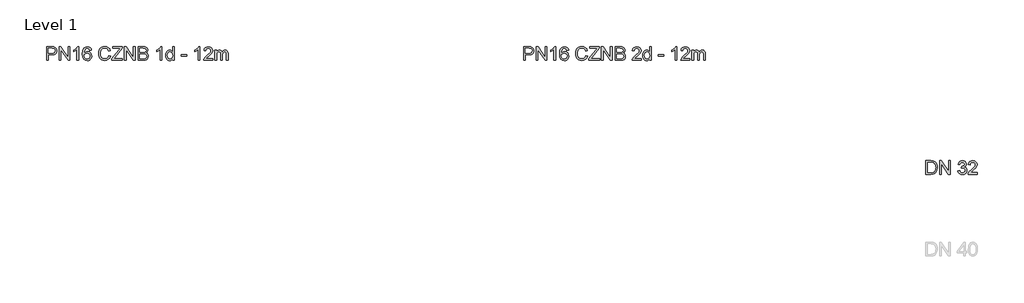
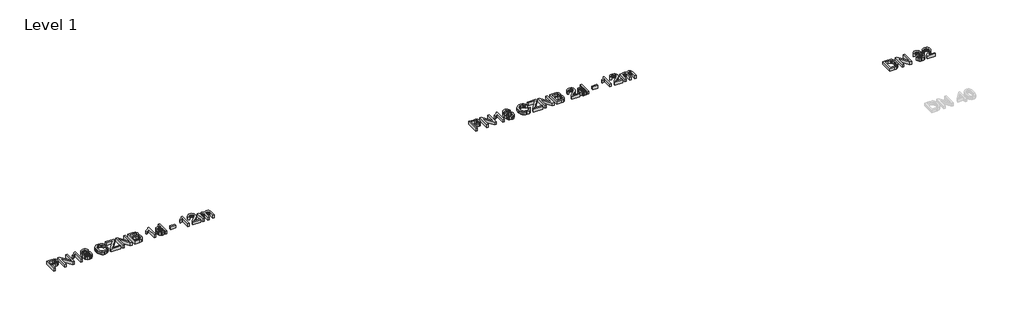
# One storey, part 13 of 13: 3 proxies.
"""IFC4 building model written with IfcOpenShell, lengths in millimetres."""

from ifc_helpers import new_model, si_unit, origin, origin_with_axes, place, context, project, spatial, polyline, outline, extrude, element, save

model = new_model("IFC4")

# Units and contexts
model_context = context("Model", 3, world=origin())
ifc_project = project(units=[si_unit("LENGTHUNIT", "METRE", prefix="MILLI")], contexts=[model_context])

# Site, building, storey
site = spatial("IfcSite", under=ifc_project)
building = spatial("IfcBuilding", under=site)
storey = spatial("IfcBuildingStorey", under=building, Name="Level 1", Elevation=0.0)

# Proxies
placement = place(None, origin())
element("IfcBuildingElementProxy", 1, Name="200mm Arial", ObjectType="200mm Arial", at=placement, inside=storey, context=model_context, shape_type="SweptSolid", body=[
    extrude(outline(polyline([(12636.2867653, 2161.9491293), (12636.2867653, 2362.8617496), (12710.7460811, 2362.8617496), (12740.7652519, 2360.9487633), (12765.1680909, 2351.5555097), (12774.0401784, 2343.2291138), (12780.9870167, 2332.1313403), (12785.4751771, 2319.0408726), (12786.9712305, 2304.7363944), (12782.9306599, 2281.0570566), (12770.8089482, 2261.326319), (12761.1014621, 2253.5578775), (12748.1412859, 2248.0089907), (12712.4628638, 2243.5698813), (12661.4008428, 2243.5698813), (12661.4008428, 2161.9491293), (12636.2867653, 2161.9491293)]), holes=[polyline([(12661.4008428, 2268.6839589), (12713.9343918, 2268.6839589), (12736.2035152, 2270.9893527), (12750.918795, 2277.9055342), (12759.1225635, 2289.0033077), (12761.857153, 2303.8534776), (12760.2446036, 2315.1351921), (12755.4069553, 2324.6510731), (12747.9450822, 2331.8125092), (12738.4598581, 2336.0308895), (12713.3457806, 2337.7476721), (12661.4008428, 2337.7476721), (12661.4008428, 2268.6839589)])]), origin_with_axes(), (0.0, 0.0, 1.0), 50.0),
    extrude(outline(polyline([(12821.5030871, 2161.9491293), (12821.5030871, 2362.8617496), (12848.3829983, 2362.8617496), (12953.3519942, 2203.6914731), (12953.3519942, 2362.8617496), (12978.4660717, 2362.8617496), (12978.4660717, 2161.9491293), (12951.5861606, 2161.9491293), (12846.6171647, 2321.1684569), (12846.6171647, 2161.9491293), (12821.5030871, 2161.9491293)])), origin_with_axes(), (0.0, 0.0, 1.0), 50.0),
    extrude(outline(polyline([(13107.1757191, 2161.9491293), (13082.0616416, 2161.9491293), (13082.0616416, 2318.5197065), (13058.2719392, 2301.5726092), (13031.8334865, 2288.8929431), (13031.8334865, 2312.6335946), (13068.6462115, 2336.1289913), (13082.1168239, 2349.7038369), (13090.9889113, 2362.8617496), (13107.1757191, 2362.8617496), (13107.1757191, 2161.9491293)])), origin_with_axes(), (0.0, 0.0, 1.0), 50.0),
    extrude(outline(polyline([(13295.5313007, 2309.4943349), (13270.4172231, 2306.3550752), (13260.9013422, 2327.2998234), (13249.5092631, 2335.1357099), (13235.7382137, 2337.7476721), (13213.0766828, 2331.6653565), (13203.6405096, 2322.057505), (13195.9333818, 2308.8321473), (13190.7278516, 2290.1253478), (13188.7964711, 2264.0731712), (13198.8703064, 2275.8270009), (13210.9429672, 2284.1104772), (13224.3400032, 2289.0217018), (13238.3869641, 2290.6587767), (13261.5880552, 2286.1828791), (13281.0612755, 2272.7551863), (13294.2682391, 2252.2396337), (13298.6705604, 2226.5001568), (13296.5981584, 2208.5168586), (13290.3809527, 2191.8456728), (13280.533978, 2177.7067415), (13267.572269, 2167.3202065), (13252.084437, 2160.9374539), (13234.6590932, 2158.8098696), (13206.1666327, 2164.4507269), (13183.4744449, 2181.3732987), (13174.8154225, 2194.4821604), (13168.6304064, 2211.2453167), (13163.6823936, 2255.7345126), (13169.176098, 2305.7542013), (13176.0432286, 2324.8319484), (13185.6572114, 2339.9549641), (13196.0774689, 2349.9766828), (13208.1593268, 2357.1350532), (13237.3078436, 2362.8617496), (13259.3439751, 2359.3178198), (13276.9900481, 2348.6860301), (13289.3508831, 2331.8002465), (13295.5313007, 2309.4943349)]), holes=[polyline([(13188.7964711, 2226.8925642), (13194.6090066, 2205.1384756), (13210.0600504, 2189.3440752), (13232.6970559, 2183.9239472), (13249.2701398, 2186.7321131), (13262.2992938, 2195.1566108), (13270.7421856, 2208.4003626), (13273.5564828, 2225.6662909), (13270.7789737, 2242.2393748), (13262.4464466, 2254.8761213), (13249.1965634, 2262.8775547), (13231.6669863, 2265.5446992), (13215.1184279, 2262.8775547), (13201.2799335, 2254.8761213), (13191.9173367, 2242.5459431), (13188.7964711, 2226.8925642)])]), origin_with_axes(), (0.0, 0.0, 1.0), 50.0),
    extrude(outline(polyline([(13549.8113357, 2233.3672873), (13574.9254133, 2226.8925642), (13563.3371304, 2197.6275515), (13545.1514971, 2176.2474762), (13521.2636929, 2163.1692713), (13492.5688973, 2158.8098696), (13463.4387746, 2162.1085449), (13440.3051285, 2172.0045705), (13422.5732163, 2188.1545901), (13409.6482956, 2210.2152471), (13401.7572268, 2236.1509278), (13399.1268705, 2263.9260184), (13402.1005833, 2293.221688), (13411.0217217, 2318.5197065), (13425.4243018, 2339.016865), (13444.8423398, 2353.9099544), (13467.8717527, 2362.9782456), (13493.1084575, 2366.0010093), (13520.6444249, 2362.0891975), (13543.410189, 2350.3537618), (13560.6945114, 2331.5182037), (13571.7861536, 2306.3060242), (13546.672076, 2300.3218105), (13537.9655355, 2318.6362025), (13526.0706843, 2331.1993726), (13510.8403697, 2338.465042), (13492.1274389, 2340.8869318), (13470.5572912, 2338.2013932), (13452.8376418, 2330.1447775), (13439.3915549, 2317.5632133), (13430.6420948, 2301.3028291), (13425.8412347, 2282.9209921), (13424.240948, 2263.9750693), (13426.1355403, 2240.7739782), (13431.8193171, 2220.7121467), (13441.5068763, 2204.5559957), (13455.4128158, 2193.0719461), (13472.0840015, 2186.2109469), (13490.0672997, 2183.9239472), (13511.0304421, 2187.0386814), (13528.4987055, 2196.3828841), (13541.687275, 2211.8584534), (13549.8113357, 2233.3672873)])), origin_with_axes(), (0.0, 0.0, 1.0), 50.0),
    extrude(outline(polyline([(13593.7609714, 2161.9491293), (13593.7609714, 2187.9951746), (13696.5226754, 2313.810817), (13716.0449466, 2337.7476721), (13606.3180102, 2337.7476721), (13606.3180102, 2362.8617496), (13747.5846963, 2362.8617496), (13747.5846963, 2337.7476721), (13635.1109077, 2200.061704), (13624.5159062, 2187.0632069), (13750.723956, 2187.0632069), (13750.723956, 2161.9491293), (13593.7609714, 2161.9491293)])), origin_with_axes(), (0.0, 0.0, 1.0), 50.0),
    extrude(outline(polyline([(13778.9772933, 2161.9491293), (13778.9772933, 2362.8617496), (13805.8572044, 2362.8617496), (13910.8262003, 2203.6914731), (13910.8262003, 2362.8617496), (13935.9402779, 2362.8617496), (13935.9402779, 2161.9491293), (13909.0603667, 2161.9491293), (13804.0913708, 2321.1684569), (13804.0913708, 2161.9491293), (13778.9772933, 2161.9491293)])), origin_with_axes(), (0.0, 0.0, 1.0), 50.0),
    extrude(outline(polyline([(13979.8899136, 2161.9491293), (13979.8899136, 2362.8617496), (14056.5565213, 2362.8617496), (14077.642291, 2361.3840903), (14094.1050103, 2356.9511123), (14106.7233628, 2349.4524509), (14116.2760319, 2338.7777417), (14122.2909025, 2326.2207029), (14124.2958594, 2313.075053), (14122.6097336, 2300.9778667), (14117.5513561, 2289.6041817), (14109.0839389, 2279.6529737), (14097.1706936, 2271.8232186), (14111.4015955, 2264.3920023), (14121.9168892, 2253.0857623), (14128.4100064, 2238.6525253), (14130.5743788, 2221.8403182), (14124.6637414, 2194.8377797), (14110.022038, 2175.6098141), (14088.1698475, 2165.4072201), (14055.9679102, 2161.9491293), (13979.8899136, 2161.9491293)]), holes=[polyline([(14005.0039911, 2187.0632069), (14056.5074704, 2187.0632069), (14075.1468248, 2188.0442255), (14090.9166997, 2193.5134045), (14101.3645484, 2204.6724917), (14105.4603012, 2221.5950635), (14100.6533098, 2241.1173347), (14094.3563964, 2248.1745376), (14085.0796387, 2252.7669312), (14054.0549238, 2256.1269201), (14005.0039911, 2256.1269201), (14005.0039911, 2187.0632069)]), polyline([(14005.0039911, 2281.2409976), (14050.8666132, 2281.2409976), (14077.6484224, 2283.3992387), (14093.7616538, 2292.6943904), (14099.1817819, 2309.0528765), (14094.1295358, 2325.435888), (14079.6595106, 2335.1234472), (14047.3839969, 2337.7476721), (14005.0039911, 2337.7476721), (14005.0039911, 2281.2409976)])]), origin_with_axes(), (0.0, 0.0, 1.0), 50.0),
    extrude(outline(polyline([(14328.3477394, 2161.9491293), (14303.2336618, 2161.9491293), (14303.2336618, 2318.5197065), (14279.4439595, 2301.5726092), (14253.0055068, 2288.8929431), (14253.0055068, 2312.6335946), (14289.8182318, 2336.1289913), (14303.2888441, 2349.7038369), (14312.1609316, 2362.8617496), (14328.3477394, 2362.8617496), (14328.3477394, 2161.9491293)])), origin_with_axes(), (0.0, 0.0, 1.0), 50.0),
    extrude(outline(polyline([(14485.310724, 2161.9491293), (14485.310724, 2185.6407298), (14477.7967342, 2173.9022285), (14468.6947205, 2165.5175847), (14458.0046829, 2160.4867984), (14445.7266213, 2158.8098696), (14429.4907626, 2161.2378908), (14414.62833, 2168.5219543), (14402.0467658, 2180.1531567), (14392.6535121, 2195.6225946), (14386.8041884, 2214.3048686), (14384.8544138, 2235.5745793), (14386.6509043, 2256.5806412), (14392.0403755, 2275.5510895), (14401.0166962, 2291.4068034), (14413.5737349, 2303.0686627), (14428.76113, 2310.2423616), (14445.6285194, 2312.6335946), (14457.9157781, 2310.9229433), (14468.7805597, 2305.7909895), (14485.310724, 2288.0100264), (14485.310724, 2362.8617496), (14510.4248015, 2362.8617496), (14510.4248015, 2161.9491293), (14485.310724, 2161.9491293)]), holes=[polyline([(14409.9684914, 2235.6726812), (14412.8011827, 2212.955968), (14421.2992568, 2196.799817), (14433.6478291, 2187.1429146), (14448.0320151, 2183.9239472), (14462.4100698, 2186.9957618), (14474.4459424, 2196.2112058), (14482.5945286, 2211.7419574), (14485.310724, 2233.7596948), (14482.5454777, 2257.83144), (14474.2497387, 2274.5210199), (14461.9072977, 2284.2698927), (14447.0019456, 2287.519517), (14432.4706068, 2284.3986514), (14420.5634928, 2275.0360547), (14412.6172417, 2258.9534801), (14409.9684914, 2235.6726812)])]), origin_with_axes(), (0.0, 0.0, 1.0), 50.0),
    extrude(outline(polyline([(14614.0203714, 2221.5950635), (14614.0203714, 2246.709141), (14692.5018637, 2246.709141), (14692.5018637, 2221.5950635), (14614.0203714, 2221.5950635)])), origin_with_axes(), (0.0, 0.0, 1.0), 50.0),
    extrude(outline(polyline([(14887.1359646, 2161.9491293), (14862.0218871, 2161.9491293), (14862.0218871, 2318.5197065), (14838.2321847, 2301.5726092), (14811.793732, 2288.8929431), (14811.793732, 2312.6335946), (14848.606457, 2336.1289913), (14862.0770694, 2349.7038369), (14870.9491568, 2362.8617496), (14887.1359646, 2362.8617496), (14887.1359646, 2161.9491293)])), origin_with_axes(), (0.0, 0.0, 1.0), 50.0),
    extrude(outline(polyline([(15075.4915461, 2187.0632069), (15075.4915461, 2161.9491293), (14943.6426391, 2161.9491293), (14946.3404403, 2179.2641086), (14961.5952804, 2205.9232905), (14993.0369283, 2235.0350191), (15036.3979528, 2276.8754646), (15044.5281449, 2291.2964388), (15047.2382089, 2305.3250056), (15044.681429, 2317.9004385), (15037.0110894, 2328.3544185), (15025.2204715, 2335.3993587), (15010.3028566, 2337.7476721), (14994.6372149, 2335.454541), (14982.4664523, 2328.5751477), (14974.6121717, 2317.6490524), (14971.8959763, 2303.2158155), (14946.7818987, 2306.3550752), (14952.8703458, 2330.6475496), (14966.0343898, 2348.3917245), (14985.5873179, 2359.2442434), (15010.8424168, 2362.8617496), (15036.2814568, 2358.8395732), (15055.7975966, 2346.7730437), (15068.213614, 2328.746826), (15072.3522864, 2306.8455845), (15067.8886516, 2283.0313567), (15053.0507444, 2258.4077885), (15017.0718853, 2223.9985592), (14988.1808859, 2199.8409748), (14976.8501205, 2187.0632069), (15075.4915461, 2187.0632069)])), origin_with_axes(), (0.0, 0.0, 1.0), 50.0),
    extrude(outline(polyline([(15106.884143, 2161.9491293), (15106.884143, 2309.4943349), (15131.9982206, 2309.4943349), (15131.9982206, 2285.2141232), (15139.5520642, 2296.367079), (15149.2641489, 2305.1042764), (15160.8033808, 2310.751265), (15173.8386662, 2312.6335946), (15187.8059192, 2310.7144768), (15199.0017946, 2304.9571236), (15207.3649787, 2295.7416796), (15212.8341577, 2283.4482896), (15221.988288, 2296.2168605), (15232.4300053, 2305.3372683), (15244.1593095, 2310.809513), (15257.1762008, 2312.6335946), (15276.0546785, 2309.5985681), (15290.0158002, 2300.4934887), (15298.642633, 2285.0731018), (15301.518244, 2263.0921525), (15301.518244, 2161.9491293), (15276.4041664, 2161.9491293), (15276.4041664, 2252.3009474), (15274.0742471, 2273.2702211), (15265.6374867, 2283.5954424), (15251.2900889, 2287.519517), (15237.6845864, 2285.0056567), (15226.5929443, 2277.4640758), (15219.2169103, 2264.3797395), (15216.7582323, 2245.237613), (15216.7582323, 2161.9491293), (15191.6441547, 2161.9491293), (15191.6441547, 2255.0968505), (15190.1910209, 2269.2970955), (15185.8316192, 2279.4261131), (15178.1612796, 2285.4961661), (15166.7753319, 2287.519517), (15148.1850284, 2282.1239144), (15140.8273885, 2275.4775131), (15135.8241933, 2266.3295141), (15131.9982206, 2236.3593942), (15131.9982206, 2161.9491293), (15106.884143, 2161.9491293)])), origin_with_axes(), (0.0, 0.0, 1.0), 50.0),
])
element("IfcBuildingElementProxy", 2, Name="200mm Arial", ObjectType="200mm Arial", at=placement, inside=storey, context=model_context, shape_type="SweptSolid", body=[
    extrude(outline(polyline([(25539.3076926, 486.050427), (25539.3076926, 686.9630473), (25608.6166605, 686.9630473), (25644.4728923, 684.0690423), (25660.4880218, 678.4894987), (25674.0015538, 669.697119), (25687.8952305, 654.393228), (25697.7912562, 635.3614662), (25703.7141563, 612.9697154), (25705.6884563, 587.5858577), (25700.3419047, 547.0452618), (25686.6076435, 517.7863805), (25668.2625947, 499.563959), (25644.2521631, 489.4839923), (25611.9521239, 486.050427), (25539.3076926, 486.050427)]), holes=[polyline([(25564.4217702, 511.1645046), (25608.8619152, 511.1645046), (25641.1864798, 514.7942736), (25659.8258342, 525.0459185), (25668.5507689, 535.9168315), (25675.1051998, 549.9883178), (25679.207084, 567.3216911), (25680.5743788, 587.9782652), (25677.8949716, 615.3486856), (25669.85675, 635.5576699), (25657.9802929, 649.4390838), (25643.7861793, 657.8267933), (25608.1752021, 661.8489698), (25564.4217702, 661.8489698), (25564.4217702, 511.1645046)])]), origin_with_axes(), (0.0, 0.0, 1.0), 50.0),
    extrude(outline(polyline([(25740.2203129, 486.050427), (25740.2203129, 686.9630473), (25767.100224, 686.9630473), (25872.06922, 527.7927708), (25872.06922, 686.9630473), (25897.1832975, 686.9630473), (25897.1832975, 486.050427), (25870.3033864, 486.050427), (25765.3343905, 645.2697546), (25765.3343905, 486.050427), (25740.2203129, 486.050427)])), origin_with_axes(), (0.0, 0.0, 1.0), 50.0),
    extrude(outline(polyline([(26010.1966465, 539.4178418), (26035.310724, 542.5571015), (26040.9331872, 526.7749639), (26049.1676125, 516.1186488), (26060.4186702, 510.0485959), (26075.0910304, 508.0252449), (26092.3079078, 510.8088853), (26105.6007105, 519.1598066), (26114.0987846, 531.6187435), (26116.931476, 546.7264308), (26114.1233101, 561.0676972), (26105.6988124, 572.6988996), (26092.9455699, 580.4060274), (26077.1511696, 582.97507), (26059.5418847, 580.2282178), (26062.3377879, 605.3422953), (26066.3599644, 605.0479898), (26081.406338, 606.8506115), (26094.8585563, 612.2584769), (26104.3499118, 621.4064758), (26107.5136969, 634.4294984), (26105.2205658, 645.2758859), (26098.3411725, 654.074397), (26087.8442729, 659.9053266), (26074.6986229, 661.8489698), (26061.5284475, 659.8869325), (26050.7617678, 654.0008206), (26042.9013558, 644.190634), (26038.4499837, 630.4563729), (26013.3359061, 633.5956326), (26020.7303343, 656.1467989), (26033.8882469, 672.9835315), (26051.8899392, 683.4681684), (26073.8157062, 686.9630473), (26089.6039751, 685.2401333), (26104.1046571, 680.0713913), (26116.3306021, 671.9166737), (26125.29466, 661.2358331), (26130.7944958, 648.9301804), (26132.6277745, 635.9010264), (26130.8864663, 623.7609206), (26125.662542, 612.7489862), (26117.0295779, 603.3679953), (26105.0611503, 596.12072), (26120.7819742, 589.7686242), (26132.4315707, 578.9528936), (26139.6420578, 564.2621392), (26142.0455535, 546.2849724), (26137.2385621, 521.808557), (26122.8175879, 501.354318), (26101.0512365, 487.521955), (26074.2081136, 482.9111674), (26049.9279019, 486.8475047), (26030.1603761, 498.6565167), (26016.4138522, 516.7195227), (26010.1966465, 539.4178418)])), origin_with_axes(), (0.0, 0.0, 1.0), 50.0),
    extrude(outline(polyline([(26292.7300188, 511.1645046), (26292.7300188, 486.050427), (26160.8811117, 486.050427), (26163.578913, 503.3654063), (26178.833753, 530.0245882), (26210.2754009, 559.1363168), (26253.6364254, 600.9767623), (26261.7666175, 615.3977366), (26264.4766815, 629.4263033), (26261.9199017, 642.0017362), (26254.2495621, 652.4557162), (26242.4589441, 659.5006564), (26227.5413292, 661.8489698), (26211.8756876, 659.5558387), (26199.7049249, 652.6764454), (26191.8506443, 641.7503501), (26189.1344489, 627.3171132), (26164.0203714, 630.4563729), (26170.1088184, 654.7488473), (26183.2728625, 672.4930222), (26202.8257905, 683.3455411), (26228.0808895, 686.9630473), (26253.5199294, 682.9408709), (26273.0360693, 670.8743414), (26285.4520866, 652.8481237), (26289.5907591, 630.9468822), (26285.1271242, 607.1326544), (26270.289217, 582.5090862), (26234.3103579, 548.0998569), (26205.4193586, 523.9422725), (26194.0885931, 511.1645046), (26292.7300188, 511.1645046)])), origin_with_axes(), (0.0, 0.0, 1.0), 50.0),
])
element("IfcBuildingElementProxy", 3, Name="200mm Arial", ObjectType="200mm Arial", at=placement, inside=storey, context=model_context, shape_type="SweptSolid", body=[
    extrude(outline(polyline([(19636.2867653, 2161.9491293), (19636.2867653, 2362.8617496), (19710.7460811, 2362.8617496), (19740.7652519, 2360.9487633), (19765.1680909, 2351.5555097), (19774.0401784, 2343.2291138), (19780.9870167, 2332.1313403), (19785.4751771, 2319.0408726), (19786.9712305, 2304.7363944), (19782.9306599, 2281.0570566), (19770.8089482, 2261.326319), (19761.1014621, 2253.5578775), (19748.1412859, 2248.0089907), (19712.4628638, 2243.5698813), (19661.4008428, 2243.5698813), (19661.4008428, 2161.9491293), (19636.2867653, 2161.9491293)]), holes=[polyline([(19661.4008428, 2268.6839589), (19713.9343918, 2268.6839589), (19736.2035152, 2270.9893527), (19750.918795, 2277.9055342), (19759.1225635, 2289.0033077), (19761.857153, 2303.8534776), (19760.2446036, 2315.1351921), (19755.4069553, 2324.6510731), (19747.9450822, 2331.8125092), (19738.4598581, 2336.0308895), (19713.3457806, 2337.7476721), (19661.4008428, 2337.7476721), (19661.4008428, 2268.6839589)])]), origin_with_axes(), (0.0, 0.0, 1.0), 50.0),
    extrude(outline(polyline([(19821.5030871, 2161.9491293), (19821.5030871, 2362.8617496), (19848.3829983, 2362.8617496), (19953.3519942, 2203.6914731), (19953.3519942, 2362.8617496), (19978.4660717, 2362.8617496), (19978.4660717, 2161.9491293), (19951.5861606, 2161.9491293), (19846.6171647, 2321.1684569), (19846.6171647, 2161.9491293), (19821.5030871, 2161.9491293)])), origin_with_axes(), (0.0, 0.0, 1.0), 50.0),
    extrude(outline(polyline([(20107.1757191, 2161.9491293), (20082.0616416, 2161.9491293), (20082.0616416, 2318.5197065), (20058.2719392, 2301.5726092), (20031.8334865, 2288.8929431), (20031.8334865, 2312.6335946), (20068.6462115, 2336.1289913), (20082.1168239, 2349.7038369), (20090.9889113, 2362.8617496), (20107.1757191, 2362.8617496), (20107.1757191, 2161.9491293)])), origin_with_axes(), (0.0, 0.0, 1.0), 50.0),
    extrude(outline(polyline([(20295.5313007, 2309.4943349), (20270.4172231, 2306.3550752), (20260.9013422, 2327.2998234), (20249.5092631, 2335.1357099), (20235.7382137, 2337.7476721), (20213.0766828, 2331.6653565), (20203.6405096, 2322.057505), (20195.9333818, 2308.8321473), (20190.7278516, 2290.1253478), (20188.7964711, 2264.0731712), (20198.8703064, 2275.8270009), (20210.9429672, 2284.1104772), (20224.3400032, 2289.0217018), (20238.3869641, 2290.6587767), (20261.5880552, 2286.1828791), (20281.0612755, 2272.7551863), (20294.2682391, 2252.2396337), (20298.6705604, 2226.5001568), (20296.5981584, 2208.5168586), (20290.3809527, 2191.8456728), (20280.533978, 2177.7067415), (20267.572269, 2167.3202065), (20252.084437, 2160.9374539), (20234.6590932, 2158.8098696), (20206.1666327, 2164.4507269), (20183.4744449, 2181.3732987), (20174.8154225, 2194.4821604), (20168.6304064, 2211.2453167), (20163.6823936, 2255.7345126), (20169.176098, 2305.7542013), (20176.0432286, 2324.8319484), (20185.6572114, 2339.9549641), (20196.0774689, 2349.9766828), (20208.1593268, 2357.1350532), (20237.3078436, 2362.8617496), (20259.3439751, 2359.3178198), (20276.9900481, 2348.6860301), (20289.3508831, 2331.8002465), (20295.5313007, 2309.4943349)]), holes=[polyline([(20188.7964711, 2226.8925642), (20194.6090066, 2205.1384756), (20210.0600504, 2189.3440752), (20232.6970559, 2183.9239472), (20249.2701398, 2186.7321131), (20262.2992938, 2195.1566108), (20270.7421856, 2208.4003626), (20273.5564828, 2225.6662909), (20270.7789737, 2242.2393748), (20262.4464466, 2254.8761213), (20249.1965634, 2262.8775547), (20231.6669863, 2265.5446992), (20215.1184279, 2262.8775547), (20201.2799335, 2254.8761213), (20191.9173367, 2242.5459431), (20188.7964711, 2226.8925642)])]), origin_with_axes(), (0.0, 0.0, 1.0), 50.0),
    extrude(outline(polyline([(20549.8113357, 2233.3672873), (20574.9254133, 2226.8925642), (20563.3371304, 2197.6275515), (20545.1514971, 2176.2474762), (20521.2636929, 2163.1692713), (20492.5688973, 2158.8098696), (20463.4387746, 2162.1085449), (20440.3051285, 2172.0045705), (20422.5732163, 2188.1545901), (20409.6482956, 2210.2152471), (20401.7572268, 2236.1509278), (20399.1268705, 2263.9260184), (20402.1005833, 2293.221688), (20411.0217217, 2318.5197065), (20425.4243018, 2339.016865), (20444.8423398, 2353.9099544), (20467.8717527, 2362.9782456), (20493.1084575, 2366.0010093), (20520.6444249, 2362.0891975), (20543.410189, 2350.3537618), (20560.6945114, 2331.5182037), (20571.7861536, 2306.3060242), (20546.672076, 2300.3218105), (20537.9655355, 2318.6362025), (20526.0706843, 2331.1993726), (20510.8403697, 2338.465042), (20492.1274389, 2340.8869318), (20470.5572912, 2338.2013932), (20452.8376418, 2330.1447775), (20439.3915549, 2317.5632133), (20430.6420948, 2301.3028291), (20425.8412347, 2282.9209921), (20424.240948, 2263.9750693), (20426.1355403, 2240.7739782), (20431.8193171, 2220.7121467), (20441.5068763, 2204.5559957), (20455.4128158, 2193.0719461), (20472.0840015, 2186.2109469), (20490.0672997, 2183.9239472), (20511.0304421, 2187.0386814), (20528.4987055, 2196.3828841), (20541.687275, 2211.8584534), (20549.8113357, 2233.3672873)])), origin_with_axes(), (0.0, 0.0, 1.0), 50.0),
    extrude(outline(polyline([(20593.7609714, 2161.9491293), (20593.7609714, 2187.9951746), (20696.5226754, 2313.810817), (20716.0449466, 2337.7476721), (20606.3180102, 2337.7476721), (20606.3180102, 2362.8617496), (20747.5846963, 2362.8617496), (20747.5846963, 2337.7476721), (20635.1109077, 2200.061704), (20624.5159062, 2187.0632069), (20750.723956, 2187.0632069), (20750.723956, 2161.9491293), (20593.7609714, 2161.9491293)])), origin_with_axes(), (0.0, 0.0, 1.0), 50.0),
    extrude(outline(polyline([(20778.9772933, 2161.9491293), (20778.9772933, 2362.8617496), (20805.8572044, 2362.8617496), (20910.8262003, 2203.6914731), (20910.8262003, 2362.8617496), (20935.9402779, 2362.8617496), (20935.9402779, 2161.9491293), (20909.0603667, 2161.9491293), (20804.0913708, 2321.1684569), (20804.0913708, 2161.9491293), (20778.9772933, 2161.9491293)])), origin_with_axes(), (0.0, 0.0, 1.0), 50.0),
    extrude(outline(polyline([(20979.8899136, 2161.9491293), (20979.8899136, 2362.8617496), (21056.5565213, 2362.8617496), (21077.642291, 2361.3840903), (21094.1050103, 2356.9511123), (21106.7233628, 2349.4524509), (21116.2760319, 2338.7777417), (21122.2909025, 2326.2207029), (21124.2958594, 2313.075053), (21122.6097336, 2300.9778667), (21117.5513561, 2289.6041817), (21109.0839389, 2279.6529737), (21097.1706936, 2271.8232186), (21111.4015955, 2264.3920023), (21121.9168892, 2253.0857623), (21128.4100064, 2238.6525253), (21130.5743788, 2221.8403182), (21124.6637414, 2194.8377797), (21110.022038, 2175.6098141), (21088.1698475, 2165.4072201), (21055.9679102, 2161.9491293), (20979.8899136, 2161.9491293)]), holes=[polyline([(21005.0039911, 2187.0632069), (21056.5074704, 2187.0632069), (21075.1468248, 2188.0442255), (21090.9166997, 2193.5134045), (21101.3645484, 2204.6724917), (21105.4603012, 2221.5950635), (21100.6533098, 2241.1173347), (21094.3563964, 2248.1745376), (21085.0796387, 2252.7669312), (21054.0549238, 2256.1269201), (21005.0039911, 2256.1269201), (21005.0039911, 2187.0632069)]), polyline([(21005.0039911, 2281.2409976), (21050.8666132, 2281.2409976), (21077.6484224, 2283.3992387), (21093.7616538, 2292.6943904), (21099.1817819, 2309.0528765), (21094.1295358, 2325.435888), (21079.6595106, 2335.1234472), (21047.3839969, 2337.7476721), (21005.0039911, 2337.7476721), (21005.0039911, 2281.2409976)])]), origin_with_axes(), (0.0, 0.0, 1.0), 50.0),
    extrude(outline(polyline([(21362.879596, 2187.0632069), (21362.879596, 2161.9491293), (21231.0306889, 2161.9491293), (21233.7284902, 2179.2641086), (21248.9833303, 2205.9232905), (21280.4249781, 2235.0350191), (21323.7860026, 2276.8754646), (21331.9161947, 2291.2964388), (21334.6262588, 2305.3250056), (21332.0694789, 2317.9004385), (21324.3991393, 2328.3544185), (21312.6085214, 2335.3993587), (21297.6909065, 2337.7476721), (21282.0252648, 2335.454541), (21269.8545022, 2328.5751477), (21262.0002216, 2317.6490524), (21259.2840262, 2303.2158155), (21234.1699486, 2306.3550752), (21240.2583956, 2330.6475496), (21253.4224397, 2348.3917245), (21272.9753677, 2359.2442434), (21298.2304667, 2362.8617496), (21323.6695067, 2358.8395732), (21343.1856465, 2346.7730437), (21355.6016639, 2328.746826), (21359.7403363, 2306.8455845), (21355.2767014, 2283.0313567), (21340.4387943, 2258.4077885), (21304.4599352, 2223.9985592), (21275.5689358, 2199.8409748), (21264.2381704, 2187.0632069), (21362.879596, 2187.0632069)])), origin_with_axes(), (0.0, 0.0, 1.0), 50.0),
    extrude(outline(polyline([(21485.310724, 2161.9491293), (21485.310724, 2185.6407298), (21477.7967342, 2173.9022285), (21468.6947205, 2165.5175847), (21458.0046829, 2160.4867984), (21445.7266213, 2158.8098696), (21429.4907626, 2161.2378908), (21414.62833, 2168.5219543), (21402.0467658, 2180.1531567), (21392.6535121, 2195.6225946), (21386.8041884, 2214.3048686), (21384.8544138, 2235.5745793), (21386.6509043, 2256.5806412), (21392.0403755, 2275.5510895), (21401.0166962, 2291.4068034), (21413.5737349, 2303.0686627), (21428.76113, 2310.2423616), (21445.6285194, 2312.6335946), (21457.9157781, 2310.9229433), (21468.7805597, 2305.7909895), (21485.310724, 2288.0100264), (21485.310724, 2362.8617496), (21510.4248015, 2362.8617496), (21510.4248015, 2161.9491293), (21485.310724, 2161.9491293)]), holes=[polyline([(21409.9684914, 2235.6726812), (21412.8011827, 2212.955968), (21421.2992568, 2196.799817), (21433.6478291, 2187.1429146), (21448.0320151, 2183.9239472), (21462.4100698, 2186.9957618), (21474.4459424, 2196.2112058), (21482.5945286, 2211.7419574), (21485.310724, 2233.7596948), (21482.5454777, 2257.83144), (21474.2497387, 2274.5210199), (21461.9072977, 2284.2698927), (21447.0019456, 2287.519517), (21432.4706068, 2284.3986514), (21420.5634928, 2275.0360547), (21412.6172417, 2258.9534801), (21409.9684914, 2235.6726812)])]), origin_with_axes(), (0.0, 0.0, 1.0), 50.0),
    extrude(outline(polyline([(21614.0203714, 2221.5950635), (21614.0203714, 2246.709141), (21692.5018637, 2246.709141), (21692.5018637, 2221.5950635), (21614.0203714, 2221.5950635)])), origin_with_axes(), (0.0, 0.0, 1.0), 50.0),
    extrude(outline(polyline([(21887.1359646, 2161.9491293), (21862.0218871, 2161.9491293), (21862.0218871, 2318.5197065), (21838.2321847, 2301.5726092), (21811.793732, 2288.8929431), (21811.793732, 2312.6335946), (21848.606457, 2336.1289913), (21862.0770694, 2349.7038369), (21870.9491568, 2362.8617496), (21887.1359646, 2362.8617496), (21887.1359646, 2161.9491293)])), origin_with_axes(), (0.0, 0.0, 1.0), 50.0),
    extrude(outline(polyline([(22075.4915461, 2187.0632069), (22075.4915461, 2161.9491293), (21943.6426391, 2161.9491293), (21946.3404403, 2179.2641086), (21961.5952804, 2205.9232905), (21993.0369283, 2235.0350191), (22036.3979528, 2276.8754646), (22044.5281449, 2291.2964388), (22047.2382089, 2305.3250056), (22044.681429, 2317.9004385), (22037.0110894, 2328.3544185), (22025.2204715, 2335.3993587), (22010.3028566, 2337.7476721), (21994.6372149, 2335.454541), (21982.4664523, 2328.5751477), (21974.6121717, 2317.6490524), (21971.8959763, 2303.2158155), (21946.7818987, 2306.3550752), (21952.8703458, 2330.6475496), (21966.0343898, 2348.3917245), (21985.5873179, 2359.2442434), (22010.8424168, 2362.8617496), (22036.2814568, 2358.8395732), (22055.7975966, 2346.7730437), (22068.213614, 2328.746826), (22072.3522864, 2306.8455845), (22067.8886516, 2283.0313567), (22053.0507444, 2258.4077885), (22017.0718853, 2223.9985592), (21988.1808859, 2199.8409748), (21976.8501205, 2187.0632069), (22075.4915461, 2187.0632069)])), origin_with_axes(), (0.0, 0.0, 1.0), 50.0),
    extrude(outline(polyline([(22106.884143, 2161.9491293), (22106.884143, 2309.4943349), (22131.9982206, 2309.4943349), (22131.9982206, 2285.2141232), (22139.5520642, 2296.367079), (22149.2641489, 2305.1042764), (22160.8033808, 2310.751265), (22173.8386662, 2312.6335946), (22187.8059192, 2310.7144768), (22199.0017946, 2304.9571236), (22207.3649787, 2295.7416796), (22212.8341577, 2283.4482896), (22221.988288, 2296.2168605), (22232.4300053, 2305.3372683), (22244.1593095, 2310.809513), (22257.1762008, 2312.6335946), (22276.0546785, 2309.5985681), (22290.0158002, 2300.4934887), (22298.642633, 2285.0731018), (22301.518244, 2263.0921525), (22301.518244, 2161.9491293), (22276.4041664, 2161.9491293), (22276.4041664, 2252.3009474), (22274.0742471, 2273.2702211), (22265.6374867, 2283.5954424), (22251.2900889, 2287.519517), (22237.6845864, 2285.0056567), (22226.5929443, 2277.4640758), (22219.2169103, 2264.3797395), (22216.7582323, 2245.237613), (22216.7582323, 2161.9491293), (22191.6441547, 2161.9491293), (22191.6441547, 2255.0968505), (22190.1910209, 2269.2970955), (22185.8316192, 2279.4261131), (22178.1612796, 2285.4961661), (22166.7753319, 2287.519517), (22148.1850284, 2282.1239144), (22140.8273885, 2275.4775131), (22135.8241933, 2266.3295141), (22131.9982206, 2236.3593942), (22131.9982206, 2161.9491293), (22106.884143, 2161.9491293)])), origin_with_axes(), (0.0, 0.0, 1.0), 50.0),
])

save(model, "model.ifc")
